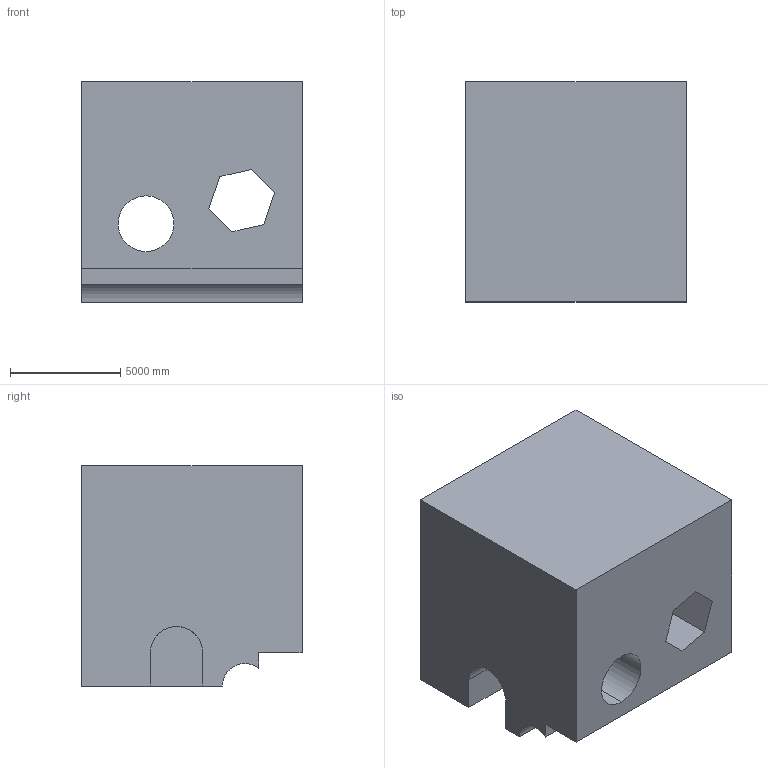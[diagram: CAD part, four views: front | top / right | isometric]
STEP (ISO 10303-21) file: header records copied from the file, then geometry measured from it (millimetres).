
FILE_DESCRIPTION (( 'STEP AP203' ), '1' );
FILE_NAME ('509.STEP', '2022-07-29T11:34:31', ( 'user' ), ( '' ), 'SwSTEP 2.0', 'SolidWorks 2021', '' );
FILE_SCHEMA (( 'CONFIG_CONTROL_DESIGN' ));
Length unit declared in the file: centimetre
Products named in the file (1): 509
Bounding box: 10000 x 10000 x 10000 mm (x, y, z)
Volume: 789050277735 mm3; surface area: 781749833.6 mm2
Topology: 1 solids, 1 shells, 28 faces, 81 edges, 54 vertices
Faces by surface type: plane 22, cylinder 6
Entity records: 1302 total; most frequent: CARTESIAN_POINT 468, ORIENTED_EDGE 162, DIRECTION 147, EDGE_CURVE 81, VECTOR 65, LINE 65, VERTEX_POINT 54, AXIS2_PLACEMENT_3D 41
